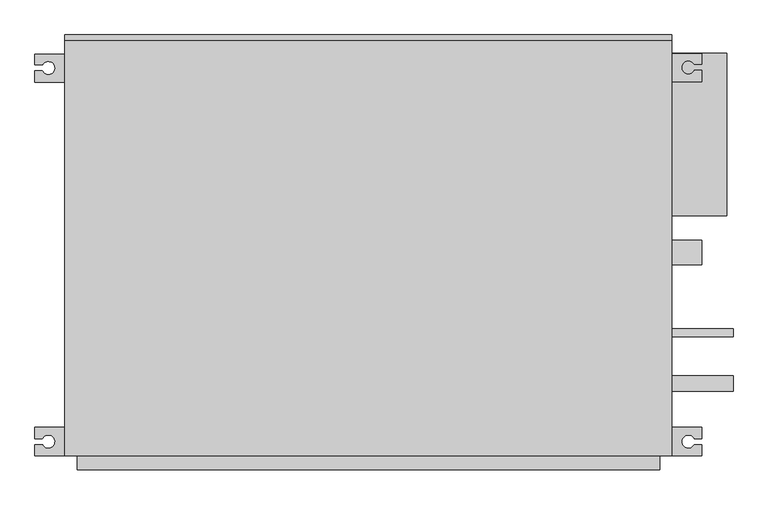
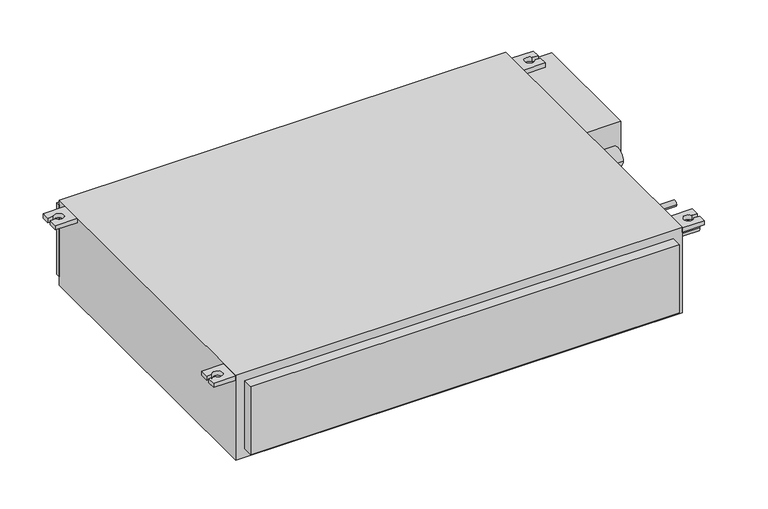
"""IFC4 building model written with IfcOpenShell, lengths in millimetres: proxy geometry, PEFY-P-NMSU-E_Low_Profile_Ducted : PEFY-P15NMSU-E."""

from ifc_helpers import new_model, si_unit, point, frame, frame_2d, origin, origin_with_axes, place, context, project, spatial, polyline, circle_curve, trimmed, segment, composite_curve, outline, extrude, source, transform, mapped, element, save


def mechanical_equipment_be926906(model_context):
    return source(origin(), model_context, "Body", "SweptSolid", [
        extrude(outline(composite_curve([segment(polyline([(-544.3, 282.0), (-544.3, 300.9759165), (-532.1454311, 300.9759165)]), True, "CONTINUOUS"), segment(trimmed(circle_curve(frame_2d((-522.2863556, 305.4254582)), 10.8166442), [point((-532.1454311, 300.9759165))], [point((-531.8387803, 310.5))], True, "CARTESIAN"), True, "CONTINUOUS"), segment(polyline([(-531.8387803, 310.5), (-544.3, 310.5), (-544.3, 328.0), (-495.3, 328.0), (-495.3, 282.0), (-544.3, 282.0)]), True, "CONTINUOUS")], self_intersect=False)), frame((0.0, 0.0, 188.55), z_axis=(0.0, 0.0, 1.0), x_axis=(1.0, 0.0, 0.0)), (0.0, 0.0, 1.0), 10.0),
        extrude(outline(composite_curve([segment(polyline([(-544.3, -281.0), (-495.3, -281.0), (-495.3, -327.0), (-544.3, -327.0), (-544.3, -309.5), (-531.8387803, -309.5)]), True, "CONTINUOUS"), segment(trimmed(circle_curve(frame_2d((-522.2863556, -304.4254582)), 10.8166442), [point((-531.8387803, -309.5))], [point((-532.1454311, -299.9759165))], True, "CARTESIAN"), True, "CONTINUOUS"), segment(polyline([(-532.1454311, -299.9759165), (-544.3, -299.9759165), (-544.3, -281.0)]), True, "CONTINUOUS")], self_intersect=False)), frame((0.0, 0.0, 188.55), z_axis=(0.0, 0.0, 1.0), x_axis=(1.0, 0.0, 0.0)), (0.0, 0.0, 1.0), 10.0),
        extrude(outline(composite_curve([segment(polyline([(544.3, 282.9429009), (495.3, 282.9429009), (495.3, 328.9429009), (544.3, 328.9429009), (544.3, 311.4429009), (531.8387803, 311.4429009)]), True, "CONTINUOUS"), segment(trimmed(circle_curve(frame_2d((522.2863556, 306.3683591)), 10.8166442), [point((531.8387803, 311.4429009))], [point((532.1454311, 301.9188174))], True, "CARTESIAN"), True, "CONTINUOUS"), segment(polyline([(532.1454311, 301.9188174), (544.3, 301.9188174), (544.3, 282.9429009)]), True, "CONTINUOUS")], self_intersect=False)), frame((0.0, 0.0, 188.55), z_axis=(0.0, 0.0, 1.0), x_axis=(1.0, 0.0, 0.0)), (0.0, 0.0, 1.0), 10.0),
        extrude(outline(composite_curve([segment(polyline([(544.3, -281.0), (544.3, -299.9759165), (532.1454311, -299.9759165)]), True, "CONTINUOUS"), segment(trimmed(circle_curve(frame_2d((522.2863556, -304.4254582)), 10.8166442), [point((532.1454311, -299.9759165))], [point((531.8387803, -309.5))], True, "CARTESIAN"), True, "CONTINUOUS"), segment(polyline([(531.8387803, -309.5), (544.3, -309.5), (544.3, -327.0), (495.3, -327.0), (495.3, -281.0), (544.3, -281.0)]), True, "CONTINUOUS")], self_intersect=False)), frame((0.0, 0.0, 188.55), z_axis=(0.0, 0.0, 1.0), x_axis=(1.0, 0.0, 0.0)), (0.0, 0.0, 1.0), 10.0),
        extrude(outline(polyline([(495.3, 350.04375), (-495.3, 350.04375), (-495.3, 359.5477547), (495.3, 359.5477547), (495.3, 350.04375)])), frame((0.0, 0.0, 20.0), z_axis=(0.0, 0.0, 1.0), x_axis=(1.0, 0.0, 0.0)), (0.0, 0.0, 1.0), 168.55),
        extrude(outline(composite_curve([segment(trimmed(circle_curve(frame_2d((4.0570991, 59.8)), 20.0421875), [point((-15.9850884, 59.8))], [point((24.0992866, 59.8))], False, "CARTESIAN"), True, "CONTINUOUS"), segment(trimmed(circle_curve(frame_2d((4.0570991, 59.8)), 20.0421875), [point((24.0992866, 59.8))], [point((-15.9850884, 59.8))], False, "CARTESIAN"), True, "CONTINUOUS")], self_intersect=False)), frame((495.3, 0.0, 0.0), z_axis=(1.0, 0.0, 0.0), x_axis=(0.0, 1.0, 0.0)), (0.0, 0.0, 1.0), 26.9863556),
        extrude(outline(composite_curve([segment(trimmed(circle_curve(frame_2d((4.0570991, 149.6)), 20.0421875), [point((-15.9850884, 149.6))], [point((24.0992866, 149.6))], False, "CARTESIAN"), True, "CONTINUOUS"), segment(trimmed(circle_curve(frame_2d((4.0570991, 149.6)), 20.0421875), [point((24.0992866, 149.6))], [point((-15.9850884, 149.6))], False, "CARTESIAN"), True, "CONTINUOUS")], self_intersect=False)), frame((495.3, 0.0, 0.0), z_axis=(1.0, 0.0, 0.0), x_axis=(0.0, 1.0, 0.0)), (0.0, 0.0, 1.0), 49.0),
        extrude(outline(composite_curve([segment(trimmed(circle_curve(frame_2d((-126.5596979, 100.0)), 6.4492188), [point((-133.0089166, 100.0))], [point((-120.1104791, 100.0))], False, "CARTESIAN"), True, "CONTINUOUS"), segment(trimmed(circle_curve(frame_2d((-126.5596979, 100.0)), 6.4492188), [point((-120.1104791, 100.0))], [point((-133.0089166, 100.0))], False, "CARTESIAN"), True, "CONTINUOUS")], self_intersect=False)), frame((495.3, 0.0, 0.0), z_axis=(1.0, 0.0, 0.0), x_axis=(0.0, 1.0, 0.0)), (0.0, 0.0, 1.0), 100.0),
        extrude(outline(composite_curve([segment(trimmed(circle_curve(frame_2d((-209.7540575, 100.0)), 12.7), [point((-222.4540575, 100.0))], [point((-197.0540575, 100.0))], False, "CARTESIAN"), True, "CONTINUOUS"), segment(trimmed(circle_curve(frame_2d((-209.7540575, 100.0)), 12.7), [point((-197.0540575, 100.0))], [point((-222.4540575, 100.0))], False, "CARTESIAN"), True, "CONTINUOUS")], self_intersect=False)), frame((495.3, 0.0, 0.0), z_axis=(1.0, 0.0, 0.0), x_axis=(0.0, 1.0, 0.0)), (0.0, 0.0, 1.0), 100.0),
        extrude(outline(polyline([(585.3, 330.0), (585.3, 64.0570991), (495.3, 64.0570991), (495.3, 330.0), (585.3, 330.0)])), frame((0.0, 0.0, 20.0), z_axis=(0.0, 0.0, 1.0), x_axis=(1.0, 0.0, 0.0)), (0.0, 0.0, 1.0), 159.8),
        extrude(outline(polyline([(475.3, -350.04375), (-475.3, -350.04375), (-475.3, -327.0), (475.3, -327.0), (475.3, -350.04375)])), frame((0.0, 0.0, 19.9585938), z_axis=(0.0, 0.0, 1.0), x_axis=(1.0, 0.0, 0.0)), (0.0, 0.0, 1.0), 159.8414063),
        extrude(outline(polyline([(-495.3, -327.0), (-495.3, 350.04375), (495.3, 350.04375), (495.3, -327.0), (-495.3, -327.0)])), origin_with_axes(), (0.0, 0.0, 1.0), 200.0),
    ])


if __name__ == "__main__":
    model = new_model("IFC4")
    model_context = context("Model", 3, world=origin())
    ifc_project = project(units=[si_unit("LENGTHUNIT", "METRE", prefix="MILLI")], contexts=[model_context])
    site = spatial("IfcSite", under=ifc_project)
    building = spatial("IfcBuilding", under=site)
    placement = place(None, origin())
    mechanical_equipment_shape = mechanical_equipment_be926906(model_context)
    element("IfcBuildingElementProxy", 1, Name="PEFY-P-NMSU-E_Low_Profile_Ducted : PEFY-P15NMSU-E", ObjectType="PEFY-P-NMSU-E_Low_Profile_Ducted : PEFY-P15NMSU-E", at=placement, inside=building, context=model_context, shape_type="MappedRepresentation", body=[
        mapped(mechanical_equipment_shape, transform((0.0, 0.0, 0.0), x_axis=(1.0, 0.0, 0.0), y_axis=(0.0, 1.0, 0.0), z_axis=(0.0, 0.0, 1.0))),
    ])
    save(model, "model.ifc")
